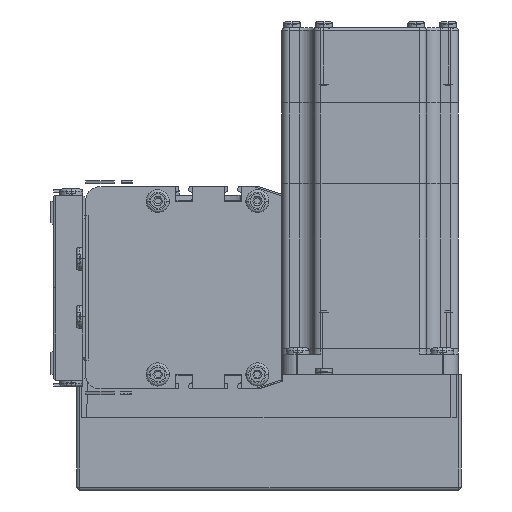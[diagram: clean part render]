
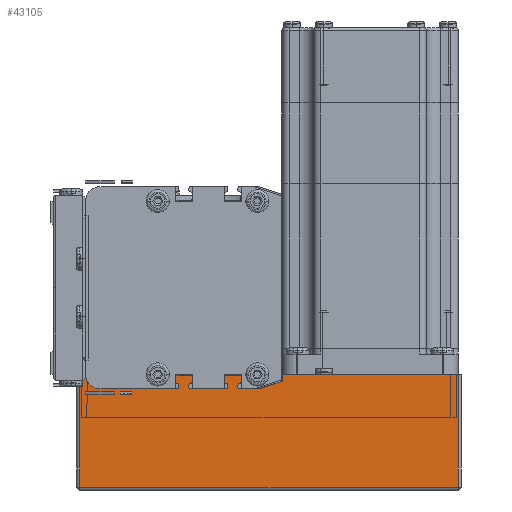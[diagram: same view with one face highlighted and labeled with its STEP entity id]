
A CAD part, left-side view. The second image highlights one B-rep face of the part: STEP entity #43105.
In plain terms, the highlighted planar face has unit normal (-1, 0, 0) as drawn and (0, 1, 0) by its records, which use the part's own axes.
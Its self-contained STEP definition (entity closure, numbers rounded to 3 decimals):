
#42962 = VERTEX_POINT ( 'NONE', #66376 ) ;
#42966 = EDGE_CURVE ( 'NONE', #42986, #42962, #66463, .T. ) ;
#42986 = VERTEX_POINT ( 'NONE', #66421 ) ;
#43102 = ORIENTED_EDGE ( 'NONE', *, *, #43129, .T. ) ;
#43105 = ADVANCED_FACE ( 'NONE', ( #66737 ), #66756, .F. ) ;
#43107 = ORIENTED_EDGE ( 'NONE', *, *, #42966, .T. ) ;
#43108 = ORIENTED_EDGE ( 'NONE', *, *, #43110, .T. ) ;
#43110 = EDGE_CURVE ( 'NONE', #43132, #42986, #66742, .T. ) ;
#43121 = EDGE_LOOP ( 'NONE', ( #43102, #43108, #43107, #43208 ) ) ;
#43129 = EDGE_CURVE ( 'NONE', #43131, #43132, #66834, .T. ) ;
#43131 = VERTEX_POINT ( 'NONE', #66817 ) ;
#43132 = VERTEX_POINT ( 'NONE', #66839 ) ;
#43207 = EDGE_CURVE ( 'NONE', #42962, #43131, #66924, .T. ) ;
#43208 = ORIENTED_EDGE ( 'NONE', *, *, #43207, .T. ) ;
#66376 = CARTESIAN_POINT ( 'NONE',  ( 1., 62., 0. ) ) ;
#66421 = CARTESIAN_POINT ( 'NONE',  ( 132., 62., 0. ) ) ;
#66458 = DIRECTION ( 'NONE',  ( -1., 0., 0. ) ) ;
#66460 = VECTOR ( 'NONE', #66458, 1000. ) ;
#66462 = CARTESIAN_POINT ( 'NONE',  ( 0., 62., 0. ) ) ;
#66463 = LINE ( 'NONE', #66462, #66460 ) ;
#66703 = VECTOR ( 'NONE', #66723, 1000. ) ;
#66711 = DIRECTION ( 'NONE',  ( 0., 0., -1. ) ) ;
#66713 = DIRECTION ( 'NONE',  ( 0., -1., 0. ) ) ;
#66723 = DIRECTION ( 'NONE',  ( 0., 0., -1. ) ) ;
#66725 = CARTESIAN_POINT ( 'NONE',  ( 132., 62., 40. ) ) ;
#66727 = AXIS2_PLACEMENT_3D ( 'NONE', #66748, #66713, #66711 ) ;
#66737 = FACE_OUTER_BOUND ( 'NONE', #43121, .T. ) ;
#66742 = LINE ( 'NONE', #66725, #66703 ) ;
#66748 = CARTESIAN_POINT ( 'NONE',  ( 0., 62., 40. ) ) ;
#66756 = PLANE ( 'NONE',  #66727 ) ;
#66808 = DIRECTION ( 'NONE',  ( 1., 0., 0. ) ) ;
#66810 = VECTOR ( 'NONE', #66808, 1000. ) ;
#66817 = CARTESIAN_POINT ( 'NONE',  ( 1., 62., 39. ) ) ;
#66824 = CARTESIAN_POINT ( 'NONE',  ( 0., 62., 39. ) ) ;
#66834 = LINE ( 'NONE', #66824, #66810 ) ;
#66839 = CARTESIAN_POINT ( 'NONE',  ( 132., 62., 39. ) ) ;
#66924 = LINE ( 'NONE', #67017, #67016 ) ;
#67015 = DIRECTION ( 'NONE',  ( 0., 0., 1. ) ) ;
#67016 = VECTOR ( 'NONE', #67015, 1000. ) ;
#67017 = CARTESIAN_POINT ( 'NONE',  ( 1., 62., 40. ) ) ;
